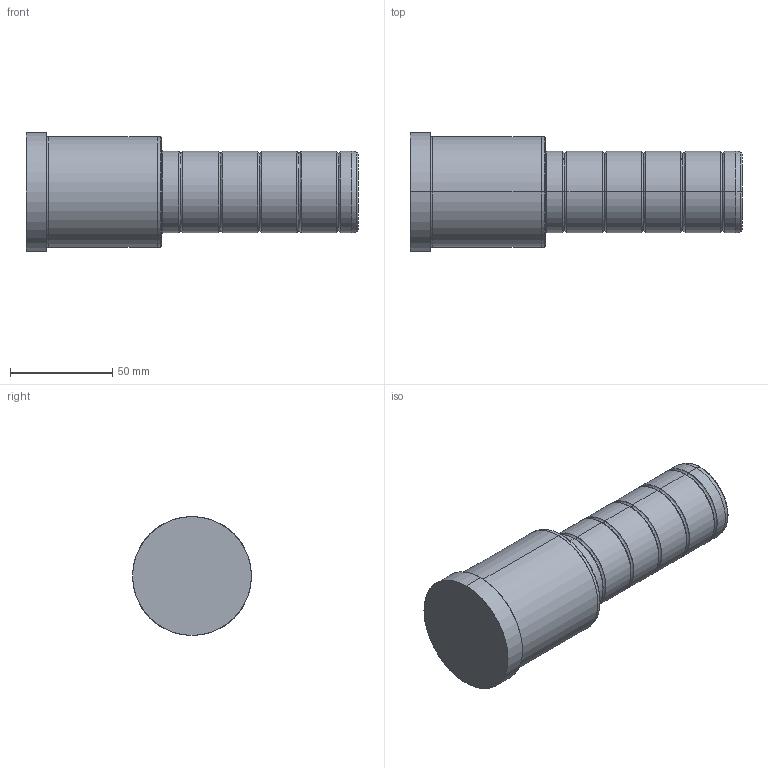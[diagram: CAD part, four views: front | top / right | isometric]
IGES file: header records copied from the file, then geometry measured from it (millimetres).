
Start section: SolidWorks IGES file using analytic representation for surfaces
Global section: file name: C:\Documents and Settings\kalite-mail\Desktop\IGS\D02\40\D02 - 40x66x96.IGS; native system: SolidWorks 2008; preprocessor: SolidWorks 2008; author: kalite-mail; date: 080617.100657; units: millimetre
Bounding box: 162 x 58 x 58 mm (x, y, z)
Surface area: 29133.5 mm2 (no closed solid volume)
Topology: 0 solids, 0 shells, 54 faces, 832 edges, 832 vertices
Faces by surface type: bspline 30, revolution 24
